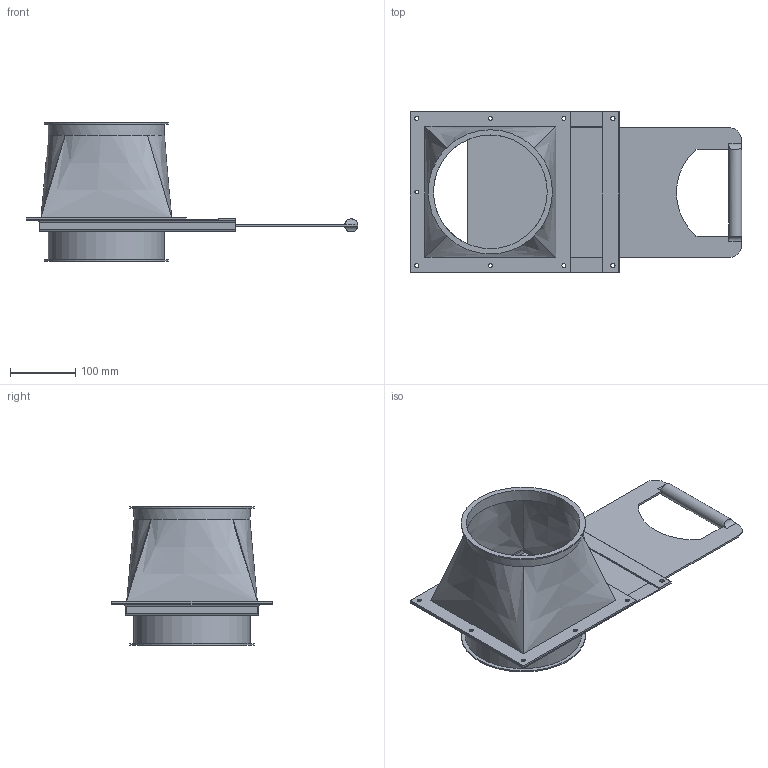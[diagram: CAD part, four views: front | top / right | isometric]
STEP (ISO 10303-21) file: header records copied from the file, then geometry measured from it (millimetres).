
FILE_DESCRIPTION((''),'2;1');
FILE_NAME('U:\Wolfgang\Marcel-3D\fertig\Kapitel 9\1721080.stp','2011-10-11T12:54:58',('iwienholt'),(''),'Autodesk Inventor 2010','Autodesk Inventor 2010','');
FILE_SCHEMA(('AUTOMOTIVE_DESIGN { 1 0 10303 214 1 1 1 1 }'));
Length unit declared in the file: millimetre
Products named in the file (4): 1721080; DN170-1; DN170-2; Schieberplatte DN170
Assembly tree (3 placements, depth 2):
  1721080
    DN170-1
    DN170-2
    Schieberplatte DN170
Bounding box: 507.13 x 245 x 212 mm (x, y, z)
Volume: 748460.2 mm3; surface area: 619230.7 mm2
Topology: 3 solids, 3 shells, 103 faces, 287 edges, 191 vertices
Faces by surface type: plane 56, bspline 25, cylinder 22
Full cylindrical faces by diameter (mm): 20 x1, 174 x2, 178 x3, 190 x2
Entity records: 4048 total; most frequent: CARTESIAN_POINT 1457, ORIENTED_EDGE 502, DIRECTION 469, EDGE_CURVE 251, VERTEX_POINT 180, EDGE_LOOP 171, AXIS2_PLACEMENT_3D 162, VECTOR 145
